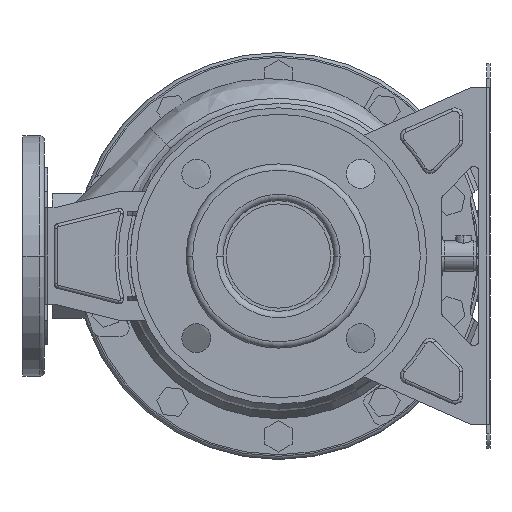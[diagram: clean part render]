
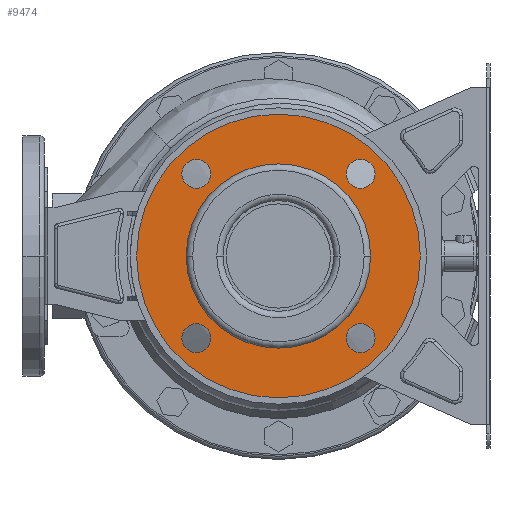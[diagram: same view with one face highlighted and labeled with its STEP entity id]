
A CAD part, left-side view. The second image highlights one B-rep face of the part: STEP entity #9474.
In plain terms, the highlighted planar face has unit normal (-1, 0, 0).
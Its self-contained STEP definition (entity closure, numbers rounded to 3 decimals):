
#8903=CARTESIAN_POINT('',(12.,0.,0.));
#8904=DIRECTION('',(-1.,0.,0.));
#8905=DIRECTION('',(0.,1.,0.));
#8906=AXIS2_PLACEMENT_3D('',#8903,#8904,#8905);
#8908=CARTESIAN_POINT('',(12.,0.,0.));
#8909=DIRECTION('',(1.,0.,0.));
#8910=DIRECTION('',(0.,1.,0.));
#8911=AXIS2_PLACEMENT_3D('',#8908,#8909,#8910);
#8913=CARTESIAN_POINT('',(12.,-51.265,51.265));
#8914=DIRECTION('',(1.,0.,0.));
#8915=DIRECTION('',(0.,1.,0.));
#8916=AXIS2_PLACEMENT_3D('',#8913,#8914,#8915);
#8918=CARTESIAN_POINT('',(12.,-51.265,51.265));
#8919=DIRECTION('',(1.,0.,0.));
#8920=DIRECTION('',(0.,-1.,0.));
#8921=AXIS2_PLACEMENT_3D('',#8918,#8919,#8920);
#8923=CARTESIAN_POINT('',(12.,-51.265,-51.265));
#8924=DIRECTION('',(1.,0.,0.));
#8925=DIRECTION('',(0.,0.,1.));
#8926=AXIS2_PLACEMENT_3D('',#8923,#8924,#8925);
#8928=CARTESIAN_POINT('',(12.,-51.265,-51.265));
#8929=DIRECTION('',(1.,0.,0.));
#8930=DIRECTION('',(0.,0.,-1.));
#8931=AXIS2_PLACEMENT_3D('',#8928,#8929,#8930);
#8933=CARTESIAN_POINT('',(12.,51.265,-51.265));
#8934=DIRECTION('',(1.,0.,0.));
#8935=DIRECTION('',(0.,-1.,0.));
#8936=AXIS2_PLACEMENT_3D('',#8933,#8934,#8935);
#8938=CARTESIAN_POINT('',(12.,51.265,-51.265));
#8939=DIRECTION('',(1.,0.,0.));
#8940=DIRECTION('',(0.,1.,0.));
#8941=AXIS2_PLACEMENT_3D('',#8938,#8939,#8940);
#8943=CARTESIAN_POINT('',(12.,51.265,51.265));
#8944=DIRECTION('',(1.,0.,0.));
#8945=DIRECTION('',(0.,0.,-1.));
#8946=AXIS2_PLACEMENT_3D('',#8943,#8944,#8945);
#8948=CARTESIAN_POINT('',(12.,51.265,51.265));
#8949=DIRECTION('',(1.,0.,0.));
#8950=DIRECTION('',(0.,0.,1.));
#8951=AXIS2_PLACEMENT_3D('',#8948,#8949,#8950);
#8953=CARTESIAN_POINT('',(12.,0.,0.));
#8954=DIRECTION('',(1.,0.,0.));
#8955=DIRECTION('',(0.,1.,0.));
#8956=AXIS2_PLACEMENT_3D('',#8953,#8954,#8955);
#8966=CARTESIAN_POINT('',(12.,0.,0.));
#8967=DIRECTION('',(-1.,0.,0.));
#8968=DIRECTION('',(0.,1.,0.));
#8969=AXIS2_PLACEMENT_3D('',#8966,#8967,#8968);
#9074=CARTESIAN_POINT('',(12.,88.5,0.));
#9076=VERTEX_POINT('',#9074);
#9077=CARTESIAN_POINT('',(12.,57.5,0.));
#9079=VERTEX_POINT('',#9077);
#9106=CARTESIAN_POINT('',(12.,-88.5,0.));
#9108=VERTEX_POINT('',#9106);
#9109=CARTESIAN_POINT('',(12.,-57.5,0.));
#9111=VERTEX_POINT('',#9109);
#9121=CARTESIAN_POINT('',(12.,-42.265,51.265));
#9122=CARTESIAN_POINT('',(12.,-60.265,51.265));
#9123=VERTEX_POINT('',#9121);
#9124=VERTEX_POINT('',#9122);
#9129=CARTESIAN_POINT('',(12.,-51.265,-42.265));
#9130=CARTESIAN_POINT('',(12.,-51.265,-60.265));
#9131=VERTEX_POINT('',#9129);
#9132=VERTEX_POINT('',#9130);
#9137=CARTESIAN_POINT('',(12.,42.265,-51.265));
#9138=CARTESIAN_POINT('',(12.,60.265,-51.265));
#9139=VERTEX_POINT('',#9137);
#9140=VERTEX_POINT('',#9138);
#9145=CARTESIAN_POINT('',(12.,51.265,42.265));
#9146=CARTESIAN_POINT('',(12.,51.265,60.265));
#9147=VERTEX_POINT('',#9145);
#9148=VERTEX_POINT('',#9146);
#9435=CARTESIAN_POINT('',(12.,0.,0.));
#9436=DIRECTION('',(1.,0.,0.));
#9437=DIRECTION('',(0.,-1.,0.));
#9438=AXIS2_PLACEMENT_3D('',#9435,#9436,#9437);
#9439=PLANE('',#9438);
#9440=ORIENTED_EDGE('',*,*,#9428,.F.);
#9441=ORIENTED_EDGE('',*,*,#9417,.T.);
#9442=EDGE_LOOP('',(#9440,#9441));
#9443=FACE_OUTER_BOUND('',#9442,.F.);
#9445=ORIENTED_EDGE('',*,*,#9444,.F.);
#9447=ORIENTED_EDGE('',*,*,#9446,.T.);
#9448=EDGE_LOOP('',(#9445,#9447));
#9449=FACE_BOUND('',#9448,.F.);
#9451=ORIENTED_EDGE('',*,*,#9450,.F.);
#9453=ORIENTED_EDGE('',*,*,#9452,.F.);
#9454=EDGE_LOOP('',(#9451,#9453));
#9455=FACE_BOUND('',#9454,.F.);
#9457=ORIENTED_EDGE('',*,*,#9456,.F.);
#9459=ORIENTED_EDGE('',*,*,#9458,.F.);
#9460=EDGE_LOOP('',(#9457,#9459));
#9461=FACE_BOUND('',#9460,.F.);
#9463=ORIENTED_EDGE('',*,*,#9462,.F.);
#9465=ORIENTED_EDGE('',*,*,#9464,.F.);
#9466=EDGE_LOOP('',(#9463,#9465));
#9467=FACE_BOUND('',#9466,.F.);
#9469=ORIENTED_EDGE('',*,*,#9468,.F.);
#9471=ORIENTED_EDGE('',*,*,#9470,.F.);
#9472=EDGE_LOOP('',(#9469,#9471));
#9473=FACE_BOUND('',#9472,.F.);
#8907=CIRCLE('',#8906,88.5);
#8912=CIRCLE('',#8911,88.5);
#8917=CIRCLE('',#8916,9.);
#8922=CIRCLE('',#8921,9.);
#8927=CIRCLE('',#8926,9.);
#8932=CIRCLE('',#8931,9.);
#8937=CIRCLE('',#8936,9.);
#8942=CIRCLE('',#8941,9.);
#8947=CIRCLE('',#8946,9.);
#8952=CIRCLE('',#8951,9.);
#8957=CIRCLE('',#8956,57.5);
#8970=CIRCLE('',#8969,57.5);
#9417=EDGE_CURVE('',#9076,#9108,#8912,.T.);
#9428=EDGE_CURVE('',#9076,#9108,#8907,.T.);
#9444=EDGE_CURVE('',#9079,#9111,#8957,.T.);
#9446=EDGE_CURVE('',#9079,#9111,#8970,.T.);
#9450=EDGE_CURVE('',#9123,#9124,#8917,.T.);
#9452=EDGE_CURVE('',#9124,#9123,#8922,.T.);
#9456=EDGE_CURVE('',#9131,#9132,#8927,.T.);
#9458=EDGE_CURVE('',#9132,#9131,#8932,.T.);
#9462=EDGE_CURVE('',#9139,#9140,#8937,.T.);
#9464=EDGE_CURVE('',#9140,#9139,#8942,.T.);
#9468=EDGE_CURVE('',#9147,#9148,#8947,.T.);
#9470=EDGE_CURVE('',#9148,#9147,#8952,.T.);
#9474=ADVANCED_FACE('',(#9443,#9449,#9455,#9461,#9467,#9473),#9439,.F.);
